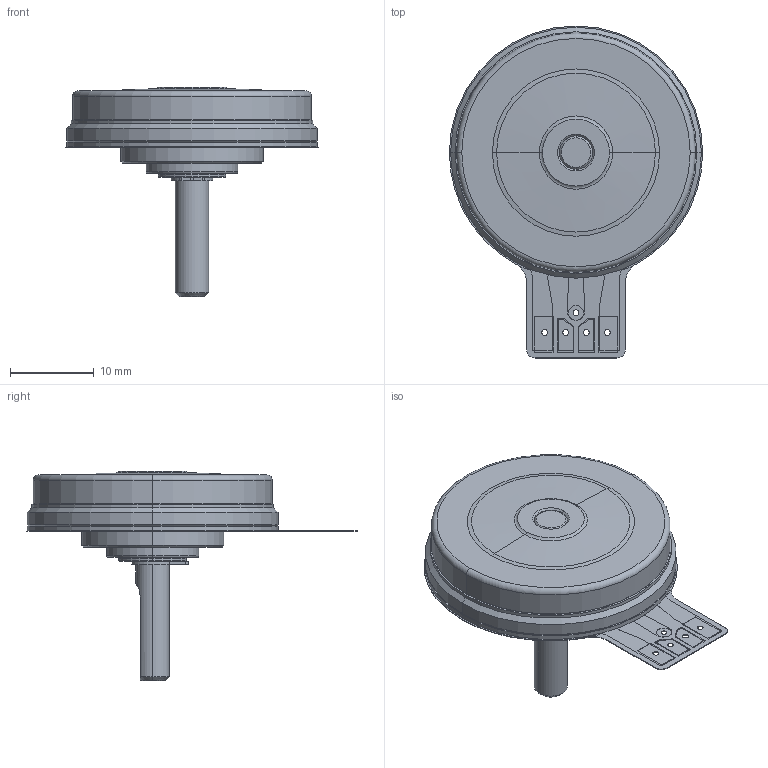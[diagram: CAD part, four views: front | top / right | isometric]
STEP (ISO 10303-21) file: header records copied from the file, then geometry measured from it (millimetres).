
FILE_DESCRIPTION (( 'STEP AP214' ), '1' );
FILE_NAME ('USR30_B3_2012.STEP', '2012-09-19T06:28:18', ( '' ), ( '' ), 'SwSTEP 2.0', 'SolidWorks 2012', '' );
FILE_SCHEMA (( 'AUTOMOTIVE_DESIGN' ));
Length unit declared in the file: millimetre
Products named in the file (1): USR30_B3_2012
Bounding box: 30.3 x 39.7 x 25.1 mm (x, y, z)
Surface area: 3752.3 mm2 (no closed solid volume)
Topology: 0 solids, 11 shells, 156 faces, 570 edges, 425 vertices
Faces by surface type: cylinder 59, plane 56, cone 35, torus 6
Entity records: 7985 total; most frequent: CARTESIAN_POINT 1435, DIRECTION 1032, ORIENTED_EDGE 858, EDGE_CURVE 570, VERTEX_POINT 425, AXIS2_PLACEMENT_3D 382, LINE 268, VECTOR 268
